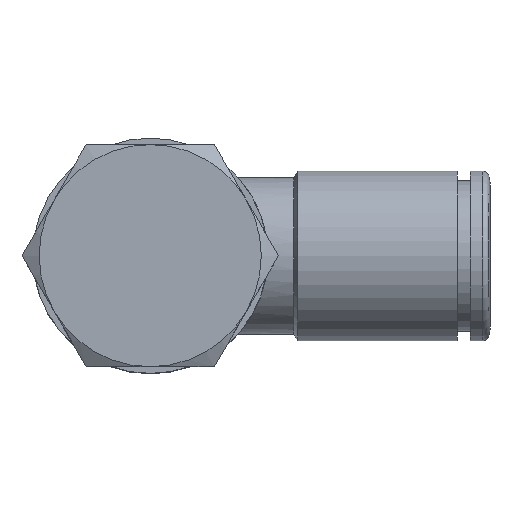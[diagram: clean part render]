
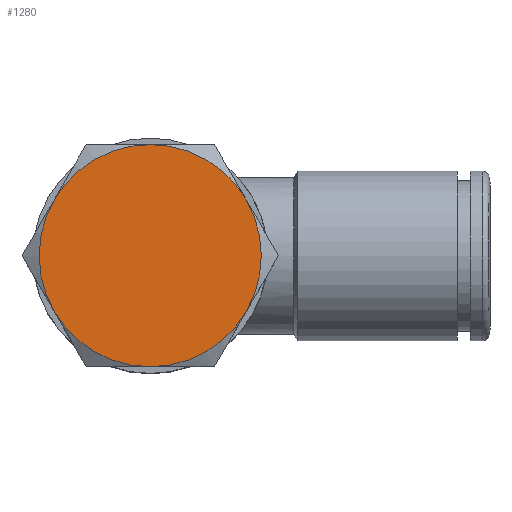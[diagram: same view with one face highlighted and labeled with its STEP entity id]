
A CAD part, top view. The second image highlights one B-rep face of the part: STEP entity #1280.
In plain terms, the highlighted planar face has unit normal (0, 0, 1).
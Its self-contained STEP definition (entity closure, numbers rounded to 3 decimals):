
#1280=ADVANCED_FACE('', (#1290), #1300, .T.);
#5840=AXIS2_PLACEMENT_3D('Ax2Pl3d', #5850, #5860, #5870);
#5920=AXIS2_PLACEMENT_3D('Ax2Pl3d', #5930, #5940, #5950);
#6000=AXIS2_PLACEMENT_3D('Ax2Pl3d', #6010, #6020, #6030);
#6080=AXIS2_PLACEMENT_3D('Ax2Pl3d', #6090, #6100, #6110);
#6160=AXIS2_PLACEMENT_3D('Ax2Pl3d', #6170, #6180, #6190);
#6240=AXIS2_PLACEMENT_3D('Ax2Pl3d', #6250, #6260, #6270);
#6280=AXIS2_PLACEMENT_3D('Ax2Pl3d', #6290, #6300, #6310);
#45410=CARTESIAN_POINT('', (10.666,21.755,32.982));
#45540=CARTESIAN_POINT('', (18.027,26.005,32.982));
#45550=CARTESIAN_POINT('', (10.666,13.255,32.982));
#45630=CARTESIAN_POINT('', (18.027,9.005,32.982));
#45700=CARTESIAN_POINT('', (25.389,21.755,32.982));
#45710=CARTESIAN_POINT('', (25.389,13.255,32.982));
#5850=CARTESIAN_POINT('HicPkt', (18.027,17.505,
32.982));
#5930=CARTESIAN_POINT('HicPkt', (18.027,17.505,
32.982));
#6010=CARTESIAN_POINT('HicPkt', (18.027,17.505,
32.982));
#6090=CARTESIAN_POINT('HicPkt', (18.027,17.505,
32.982));
#6170=CARTESIAN_POINT('HicPkt', (18.027,17.505,
32.982));
#6250=CARTESIAN_POINT('HicPkt', (18.027,17.505,
32.982));
#6290=CARTESIAN_POINT('HicPkt', (25.389,13.255,
32.982));
#46750=CIRCLE('Circle', #5840, 8.5);
#46760=CIRCLE('Circle', #5920, 8.5);
#46770=CIRCLE('Circle', #6000, 8.5);
#46780=CIRCLE('Circle', #6080, 8.5);
#46790=CIRCLE('Circle', #6160, 8.5);
#46800=CIRCLE('Circle', #6240, 8.5);
#5860=DIRECTION('Axis', (0.,0.,-1.));
#5870=DIRECTION('RefDirection', (-1.,-0.,0.));
#5940=DIRECTION('Axis', (0.,0.,-1.));
#5950=DIRECTION('RefDirection', (-1.,-0.,0.));
#6020=DIRECTION('Axis', (0.,0.,-1.));
#6030=DIRECTION('RefDirection', (-1.,-0.,0.));
#6100=DIRECTION('Axis', (0.,0.,-1.));
#6110=DIRECTION('RefDirection', (-1.,-0.,0.));
#6180=DIRECTION('Axis', (0.,0.,-1.));
#6190=DIRECTION('RefDirection', (-1.,-0.,0.));
#6260=DIRECTION('Axis', (0.,0.,-1.));
#6270=DIRECTION('RefDirection', (-1.,-0.,0.));
#6300=DIRECTION('Axis', (-0.,0.,1.));
#6310=DIRECTION('RefDirection', (-1.,0.,-0.));
#53230=EDGE_CURVE('', #52840, #52560, #46750, .T.);
#53240=EDGE_CURVE('', #52560, #52810, #46760, .T.);
#53250=EDGE_CURVE('', #52810, #53180, #46770, .T.);
#53260=EDGE_CURVE('', #53180, #53210, #46780, .T.);
#53270=EDGE_CURVE('', #53210, #52990, #46790, .T.);
#53280=EDGE_CURVE('', #52990, #52840, #46800, .T.);
#56560=EDGE_LOOP('Edge_loop', (#56570,#56580,#56590,#56600,#56610,
#56620));
#1290=FACE_OUTER_BOUND('Face_outer_bound', #56560, .T.);
#56570=ORIENTED_EDGE('', *, *, #53270, .F.);
#56580=ORIENTED_EDGE('', *, *, #53260, .F.);
#56590=ORIENTED_EDGE('', *, *, #53250, .F.);
#56600=ORIENTED_EDGE('', *, *, #53240, .F.);
#56610=ORIENTED_EDGE('', *, *, #53230, .F.);
#56620=ORIENTED_EDGE('', *, *, #53280, .F.);
#1300=PLANE('Plane', #6280);
#52560=VERTEX_POINT('', #45410);
#52810=VERTEX_POINT('', #45540);
#52840=VERTEX_POINT('', #45550);
#52990=VERTEX_POINT('', #45630);
#53180=VERTEX_POINT('', #45700);
#53210=VERTEX_POINT('', #45710);
